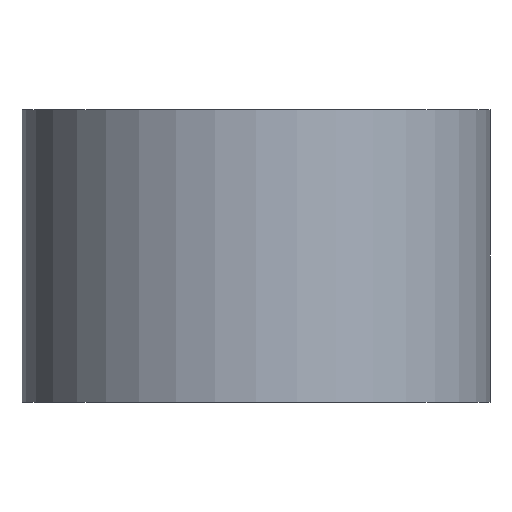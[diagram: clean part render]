
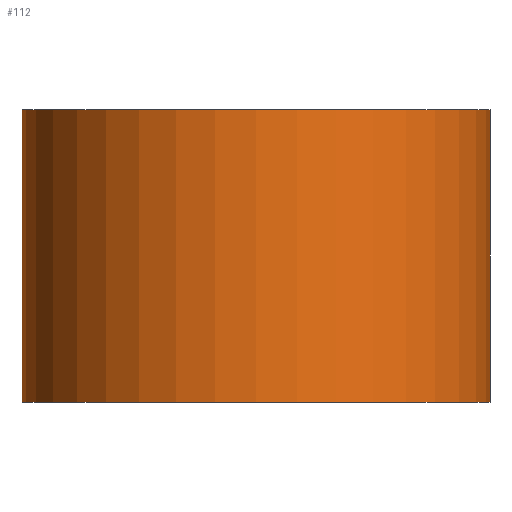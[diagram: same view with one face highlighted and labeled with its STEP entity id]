
A CAD part, front view. The second image highlights one B-rep face of the part: STEP entity #112.
In plain terms, the highlighted cylindrical face has radius 8 mm (diameter 16 mm), a partial arc.
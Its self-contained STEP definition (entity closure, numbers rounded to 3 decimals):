
#112=ADVANCED_FACE('',(#125),#119,.T.);
#119=CYLINDRICAL_SURFACE('',#254,8.);
#125=FACE_OUTER_BOUND('',#135,.T.);
#135=EDGE_LOOP('',(#177,#178,#179,#180));
#149=CIRCLE('',#250,8.);
#151=CIRCLE('',#253,8.);
#177=ORIENTED_EDGE('',*,*,#221,.T.);
#178=ORIENTED_EDGE('',*,*,#222,.F.);
#179=ORIENTED_EDGE('',*,*,#223,.F.);
#180=ORIENTED_EDGE('',*,*,#219,.T.);
#203=VERTEX_POINT('',#344);
#204=VERTEX_POINT('',#345);
#205=VERTEX_POINT('',#349);
#206=VERTEX_POINT('',#351);
#219=EDGE_CURVE('',#203,#204,#149,.T.);
#221=EDGE_CURVE('',#204,#205,#231,.T.);
#222=EDGE_CURVE('',#206,#205,#151,.T.);
#223=EDGE_CURVE('',#203,#206,#232,.T.);
#231=LINE('',#348,#235);
#232=LINE('',#352,#236);
#235=VECTOR('',#298,1.);
#236=VECTOR('',#301,1.);
#250=AXIS2_PLACEMENT_3D('',#343,#292,#293);
#253=AXIS2_PLACEMENT_3D('',#350,#299,#300);
#254=AXIS2_PLACEMENT_3D('',#353,#302,#303);
#292=DIRECTION('',(0.,0.,1.));
#293=DIRECTION('',(0.,1.,0.));
#298=DIRECTION('',(0.,0.,1.));
#299=DIRECTION('',(0.,0.,1.));
#300=DIRECTION('',(0.,1.,0.));
#301=DIRECTION('',(0.,0.,1.));
#302=DIRECTION('',(0.,0.,1.));
#303=DIRECTION('',(0.,-1.,0.));
#343=CARTESIAN_POINT('',(0.,0.,-10.));
#344=CARTESIAN_POINT('',(-8.,0.,-10.));
#345=CARTESIAN_POINT('',(8.,0.,-10.));
#348=CARTESIAN_POINT('',(8.,0.,0.));
#349=CARTESIAN_POINT('',(8.,0.,0.));
#350=CARTESIAN_POINT('',(0.,0.,0.));
#351=CARTESIAN_POINT('',(-8.,0.,0.));
#352=CARTESIAN_POINT('',(-8.,0.,0.));
#353=CARTESIAN_POINT('',(0.,0.,-10.));
